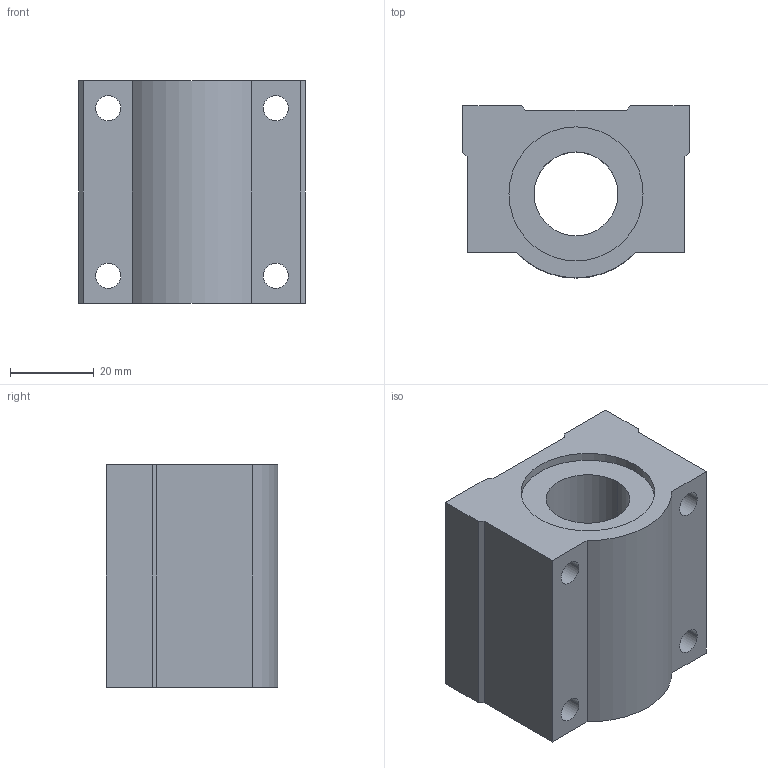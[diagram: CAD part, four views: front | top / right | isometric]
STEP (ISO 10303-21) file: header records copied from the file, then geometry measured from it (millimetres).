
FILE_DESCRIPTION((''),'2;1');
FILE_NAME('C:\Documents and Settings\ｿﾀﾀ蠑ｷ1\ｹﾙﾅﾁ ﾈｭｸ饅\ｺﾎﾇｰﾆﾄﾀﾏ\ﾁｦﾇｰ\SCE_UU\SCE20UU.stp','2005-06-22T15:37:46',('ｿﾀﾀ蠑ｷ1'),(''),'Autodesk Inventor 9','Autodesk Inventor 9','');
FILE_SCHEMA(('AUTOMOTIVE_DESIGN { 1 0 10303 214 1 1 1 1 }'));
Length unit declared in the file: millimetre
Products named in the file (1): SCE__UU
Bounding box: 54 x 41 x 53 mm (x, y, z)
Volume: 80049.8 mm3; surface area: 18725.4 mm2
Topology: 1 solids, 1 shells, 32 faces, 84 edges, 56 vertices
Faces by surface type: plane 17, bspline 8, cylinder 7
Entity records: 1145 total; most frequent: CARTESIAN_POINT 309, ORIENTED_EDGE 168, DIRECTION 164, EDGE_CURVE 84, VERTEX_POINT 56, AXIS2_PLACEMENT_3D 55, VECTOR 54, LINE 54
